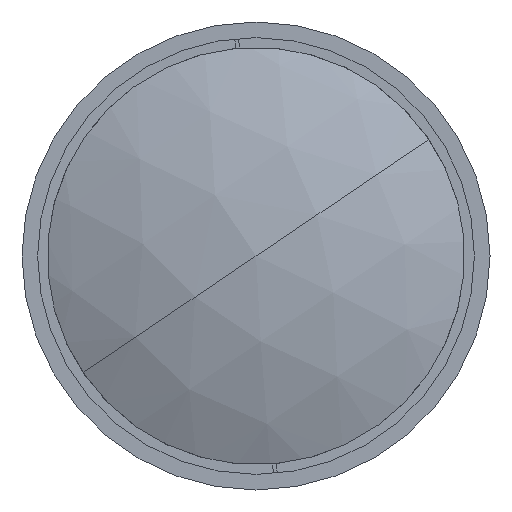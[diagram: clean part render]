
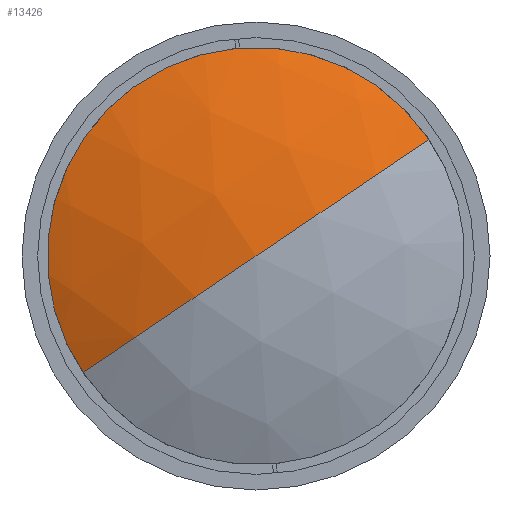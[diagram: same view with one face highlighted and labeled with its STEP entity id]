
A CAD part, left-side view. The second image highlights one B-rep face of the part: STEP entity #13426.
In plain terms, the highlighted spherical face has radius 133.05 mm.
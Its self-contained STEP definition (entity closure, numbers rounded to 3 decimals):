
#129 = VERTEX_POINT ( 'NONE', #5332 ) ;
#554 = ORIENTED_EDGE ( 'NONE', *, *, #21119, .T. ) ;
#1109 = CIRCLE ( 'NONE', #9859, 55. ) ;
#1157 = AXIS2_PLACEMENT_3D ( 'NONE', #4455, #15800, #6047 ) ;
#1589 = CARTESIAN_POINT ( 'NONE',  ( 1.5, 0., 0. ) ) ;
#1940 = DIRECTION ( 'NONE',  ( 0., 0.558, 0.83 ) ) ;
#2236 = CARTESIAN_POINT ( 'NONE',  ( 134.55, 0., 0. ) ) ;
#2808 = EDGE_CURVE ( 'NONE', #129, #10011, #11976, .T. ) ;
#2838 = AXIS2_PLACEMENT_3D ( 'NONE', #2236, #20059, #16879 ) ;
#2912 = DIRECTION ( 'NONE',  ( -1., 0., 0. ) ) ;
#4352 = EDGE_CURVE ( 'NONE', #6551, #10011, #19900, .T. ) ;
#4405 = ORIENTED_EDGE ( 'NONE', *, *, #2808, .F. ) ;
#4455 = CARTESIAN_POINT ( 'NONE',  ( 134.55, 0., 0. ) ) ;
#5332 = CARTESIAN_POINT ( 'NONE',  ( 13.4, -45.636, 30.697 ) ) ;
#6047 = DIRECTION ( 'NONE',  ( 0., 0.83, -0.558 ) ) ;
#6551 = VERTEX_POINT ( 'NONE', #18516 ) ;
#8573 = ORIENTED_EDGE ( 'NONE', *, *, #4352, .T. ) ;
#9859 = AXIS2_PLACEMENT_3D ( 'NONE', #12675, #2912, #14293 ) ;
#10011 = VERTEX_POINT ( 'NONE', #1589 ) ;
#11695 = CARTESIAN_POINT ( 'NONE',  ( 134.55, 0., 0. ) ) ;
#11976 = CIRCLE ( 'NONE', #1157, 133.05 ) ;
#12675 = CARTESIAN_POINT ( 'NONE',  ( 13.4, 0., 0. ) ) ;
#13071 = AXIS2_PLACEMENT_3D ( 'NONE', #11695, #1940, #13336 ) ;
#13336 = DIRECTION ( 'NONE',  ( 0., -0.83, 0.558 ) ) ;
#13426 = ADVANCED_FACE ( 'NONE', ( #14354 ), #18185, .T. ) ;
#14293 = DIRECTION ( 'NONE',  ( 0., 0.558, 0.83 ) ) ;
#14354 = FACE_OUTER_BOUND ( 'NONE', #15784, .T. ) ;
#15784 = EDGE_LOOP ( 'NONE', ( #554, #8573, #4405 ) ) ;
#15800 = DIRECTION ( 'NONE',  ( 0., -0.558, -0.83 ) ) ;
#16879 = DIRECTION ( 'NONE',  ( 0., -0.83, 0.558 ) ) ;
#18185 = SPHERICAL_SURFACE ( 'NONE', #2838, 133.05 ) ;
#18516 = CARTESIAN_POINT ( 'NONE',  ( 13.4, 45.636, -30.697 ) ) ;
#19900 = CIRCLE ( 'NONE', #13071, 133.05 ) ;
#20059 = DIRECTION ( 'NONE',  ( 0., 0.558, 0.83 ) ) ;
#21119 = EDGE_CURVE ( 'NONE', #129, #6551, #1109, .T. ) ;
